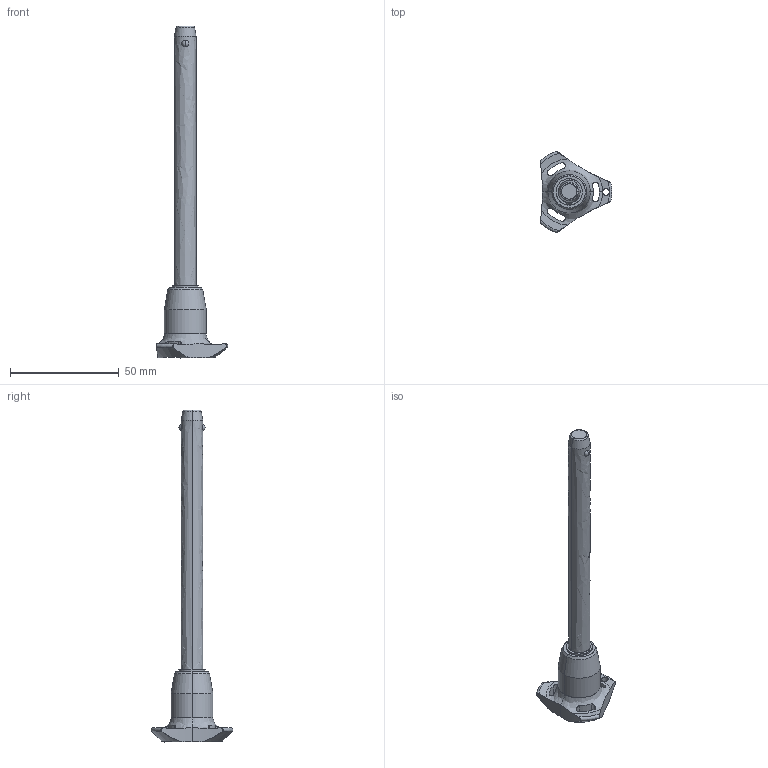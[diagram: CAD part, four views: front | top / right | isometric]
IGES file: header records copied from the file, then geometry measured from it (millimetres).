
Start section: SolidWorks IGES file using analytic representation for surfaces
Global section: file name: C:\Users\ianosborn\Desktop\QR1714_v2\QR1714_v2_20251112_IGES\QR1714.M10-110-S.igs; native system: SolidWorks 2019; preprocessor: SolidWorks 2019; author: IanOsborn; date: 251112.101143; units: millimetre
Bounding box: 33 x 37.51 x 152.9 mm (x, y, z)
Surface area: 7620.2 mm2 (no closed solid volume)
Topology: 0 solids, 0 shells, 65 faces, 1282 edges, 1278 vertices
Faces by surface type: revolution 50, bspline 15
